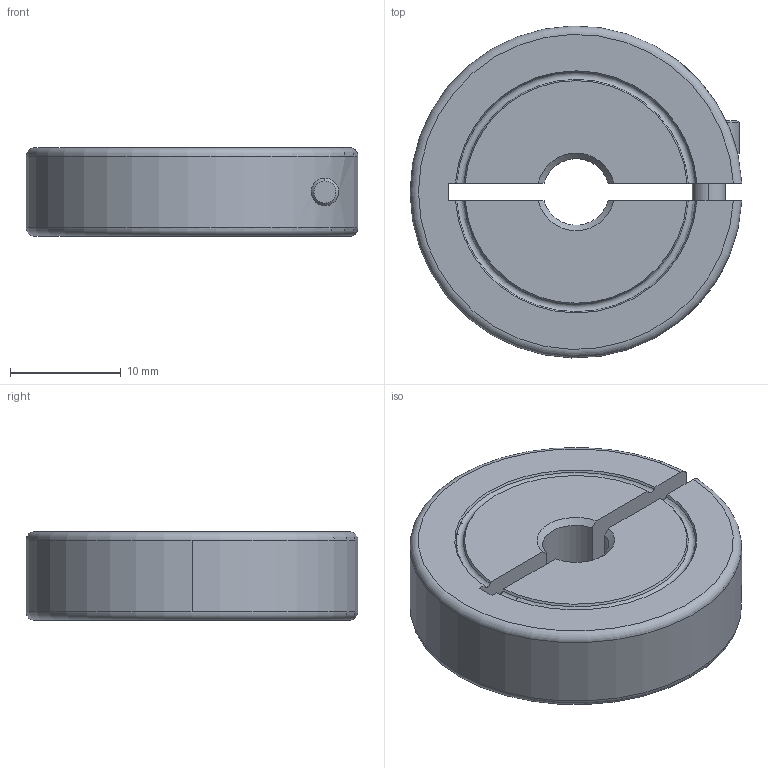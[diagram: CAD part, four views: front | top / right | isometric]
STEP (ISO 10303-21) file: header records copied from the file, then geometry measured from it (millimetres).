
FILE_DESCRIPTION (( 'STEP AP214' ), '1' );
FILE_NAME ('Ruland_ENCL30-6MM-A.step', '2018-10-02T19:12:18', ( '' ), ( '' ), 'SwSTEP 2.0', 'SolidWorks 2018', '' );
FILE_SCHEMA (( 'AUTOMOTIVE_DESIGN' ));
Length unit declared in the file: inch
Products named in the file (3): ENCLxx-xx-x_ENCL30-6MM-A; Ruland_ENCL30-6MM-A; CAP SCREWS_CFM3_10
Assembly tree (2 placements, depth 2):
  Ruland_ENCL30-6MM-A
    ENCLxx-xx-x_ENCL30-6MM-A
    CAP SCREWS_CFM3_10
Bounding box: 29.98 x 29.99 x 8 mm (x, y, z)
Volume: 5052.3 mm3; surface area: 2777.2 mm2
Topology: 2 solids, 2 shells, 53 faces, 132 edges, 86 vertices
Faces by surface type: plane 20, cylinder 15, cone 12, torus 6
Entity records: 1834 total; most frequent: CARTESIAN_POINT 435, DIRECTION 274, ORIENTED_EDGE 264, EDGE_CURVE 132, AXIS2_PLACEMENT_3D 105, VERTEX_POINT 86, LINE 64, VECTOR 64
